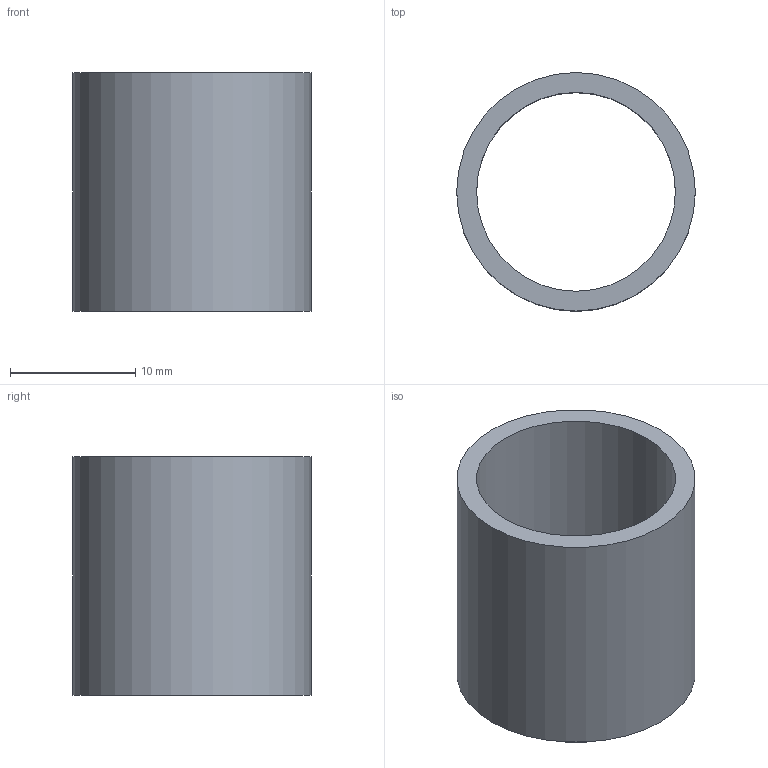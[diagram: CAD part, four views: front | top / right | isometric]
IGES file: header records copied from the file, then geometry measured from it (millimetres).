
Global section: file name: No Iges File Name specified; native system: AutoDesk Inventor R6.0; preprocessor: AutoDesk Inventor Iges Exporter R6.0; author: No Author specified; organization: No Organization specified; date: 20080121.073000; units: inch
Bounding box: 19.05 x 19.05 x 19.05 mm (x, y, z)
Surface area: 2264.3 mm2 (no closed solid volume)
Topology: 0 solids, 0 shells, 4 faces, 10 edges, 8 vertices
Faces by surface type: revolution 2, plane 2
